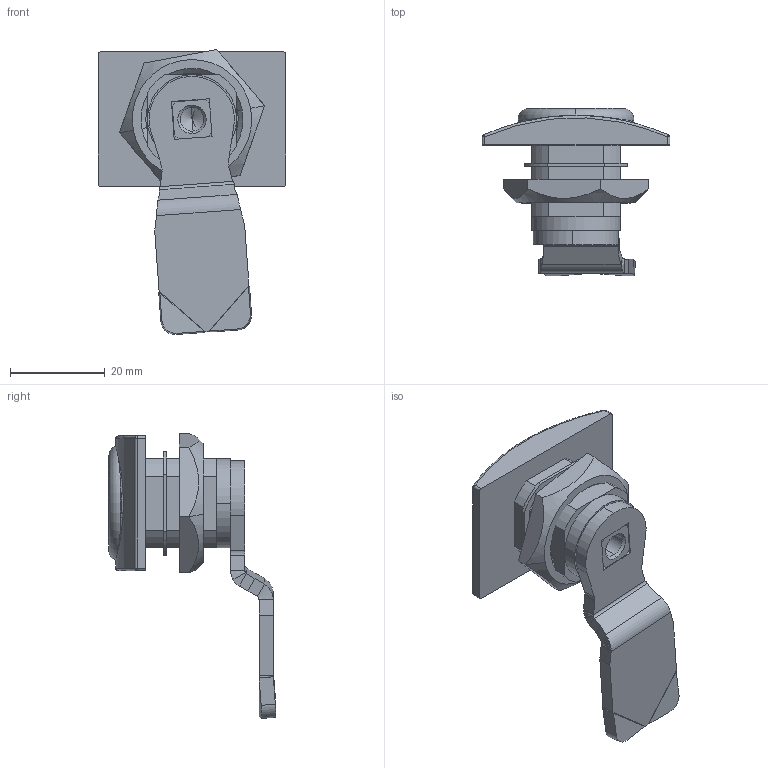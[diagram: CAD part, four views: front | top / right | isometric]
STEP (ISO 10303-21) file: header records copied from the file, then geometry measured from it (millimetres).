
FILE_DESCRIPTION (( 'STEP AP214' ), '1' );
FILE_NAME ('M22PW .STEP', '2010-02-19T08:59:48', ( '£ukaszC' ), ( '' ), 'SwSTEP 2.0', 'SolidWorks 2008', '' );
FILE_SCHEMA (( 'AUTOMOTIVE_DESIGN' ));
Length unit declared in the file: millimetre
Products named in the file (6): FLAT SEAL1_Domyœlna; Korpus M22P W_Domyœlna; Wk³adka1333_Domyœlna; M22-00.00.05_Domyœlna; J-100.24.45_Domyœlna; M22PW 
Assembly tree (5 placements, depth 2):
  M22PW 
    FLAT SEAL1_Domyœlna
    Wk³adka1333_Domyœlna
    Korpus M22P W_Domyœlna
    M22-00.00.05_Domyœlna
    J-100.24.45_Domyœlna
Bounding box: 39.59 x 35.33 x 60.1 mm (x, y, z)
Volume: 15885.7 mm3; surface area: 10636.7 mm2
Topology: 5 solids, 5 shells, 219 faces, 542 edges, 337 vertices
Faces by surface type: plane 119, cylinder 63, bspline 20, cone 10, torus 6, sphere 1
Entity records: 7658 total; most frequent: CARTESIAN_POINT 2307, ORIENTED_EDGE 1072, DIRECTION 1056, EDGE_CURVE 536, AXIS2_PLACEMENT_3D 375, VERTEX_POINT 337, VECTOR 306, LINE 306
